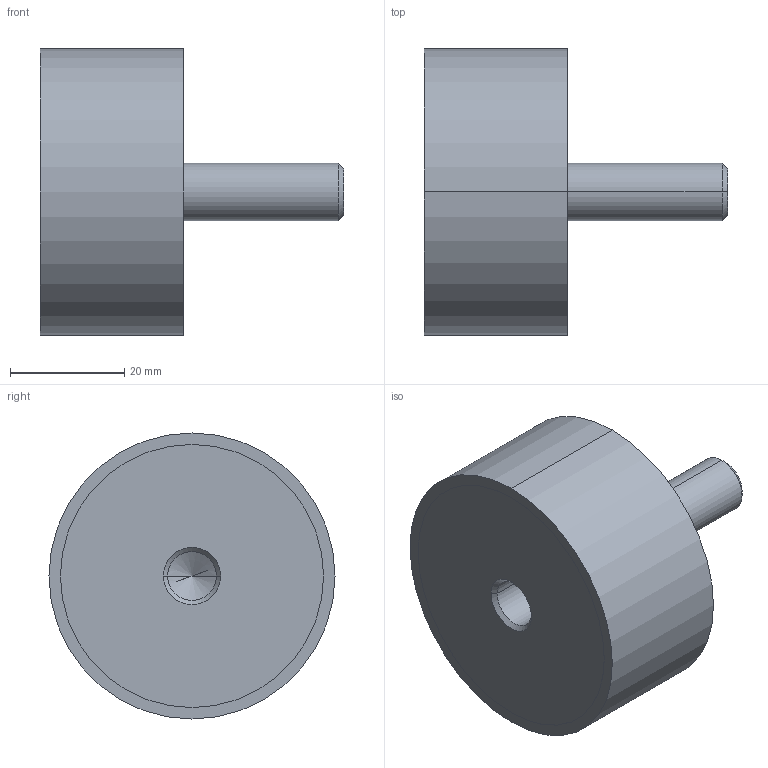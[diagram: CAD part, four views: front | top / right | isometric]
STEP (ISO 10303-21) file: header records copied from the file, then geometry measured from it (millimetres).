
FILE_DESCRIPTION (( 'STEP AP214' ), '1' );
FILE_NAME ('351-50-25-M10-ES-55.step', '2025-07-23T09:50:50', ( '' ), ( '' ), 'SwSTEP 2.0', 'SolidWorks 2022', '' );
FILE_SCHEMA (( 'AUTOMOTIVE_DESIGN' ));
Length unit declared in the file: millimetre
Products named in the file (1): 351-50-25-M10-ES-55
Bounding box: 53 x 50 x 50 mm (x, y, z)
Volume: 50553.6 mm3; surface area: 9014.2 mm2
Topology: 1 solids, 1 shells, 24 faces, 48 edges, 29 vertices
Faces by surface type: cylinder 12, cone 6, plane 6
Entity records: 740 total; most frequent: DIRECTION 124, CARTESIAN_POINT 100, ORIENTED_EDGE 92, AXIS2_PLACEMENT_3D 53, EDGE_CURVE 46, VERTEX_POINT 29, EDGE_LOOP 29, CIRCLE 28
